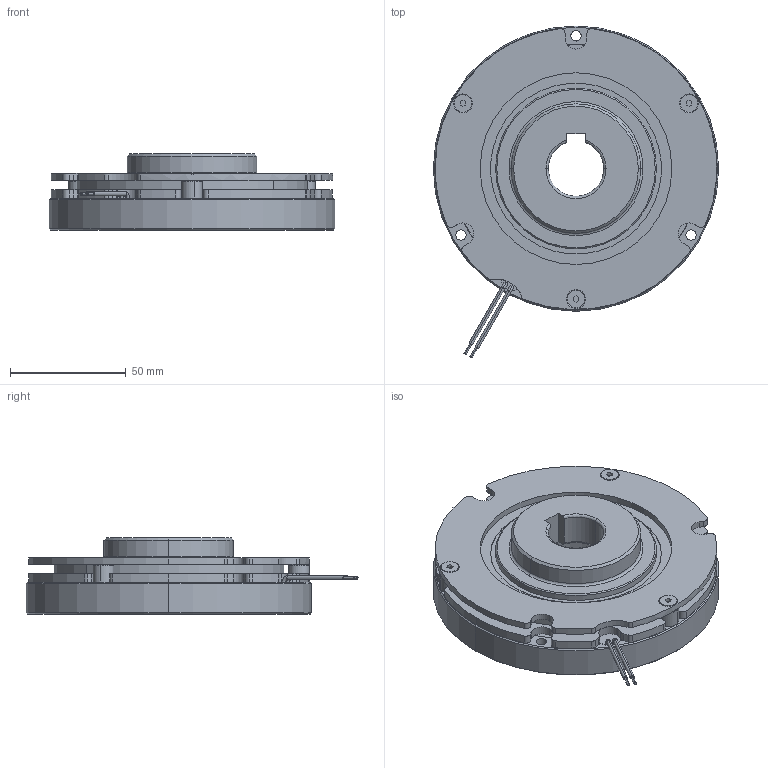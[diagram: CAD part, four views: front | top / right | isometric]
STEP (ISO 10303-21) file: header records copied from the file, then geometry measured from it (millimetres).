
FILE_DESCRIPTION (( 'STEP AP214' ), '1' );
FILE_NAME ('ÌÞÚ°·_BXR-10-20_B.STEP', '2017-08-08T09:53:27', ( 'MIKI' ), ( '' ), 'SwSTEP 2.0', 'SolidWorks 2012', '' );
FILE_SCHEMA (( 'AUTOMOTIVE_DESIGN' ));
Length unit declared in the file: millimetre
Products named in the file (1): 枌痚愷BXR-10-20_B
Bounding box: 123.5 x 143.73 x 33 mm (x, y, z)
Volume: 222106.4 mm3; surface area: 70681.6 mm2
Topology: 1 solids, 4 shells, 311 faces, 757 edges, 482 vertices
Faces by surface type: cylinder 163, plane 85, cone 49, torus 14
Entity records: 12794 total; most frequent: DIRECTION 1787, CARTESIAN_POINT 1593, ORIENTED_EDGE 1514, EDGE_CURVE 757, AXIS2_PLACEMENT_3D 724, VERTEX_POINT 482, CIRCLE 412, EDGE_LOOP 377
